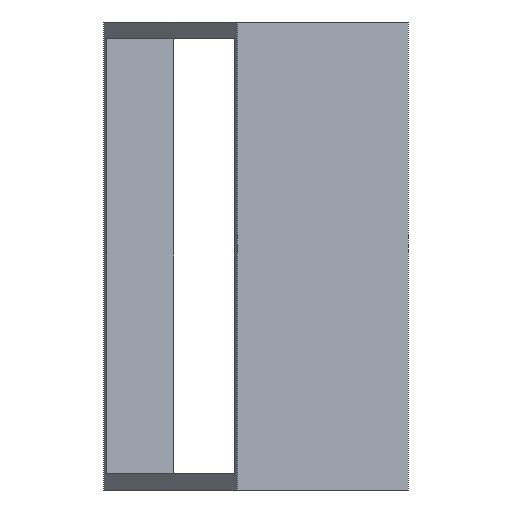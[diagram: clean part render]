
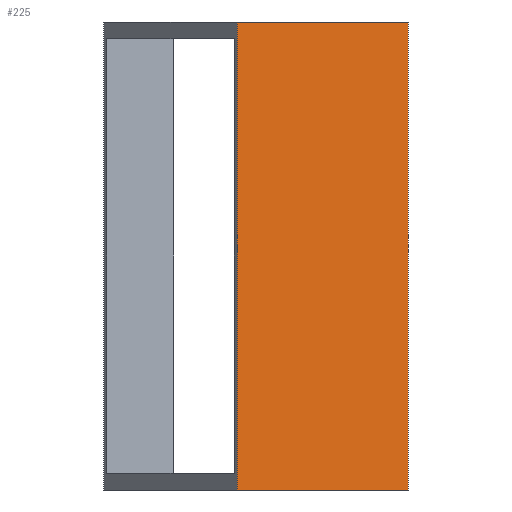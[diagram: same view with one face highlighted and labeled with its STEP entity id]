
A CAD part, left-side view. The second image highlights one B-rep face of the part: STEP entity #225.
In plain terms, the highlighted planar face has unit normal (-0.985, -0.175, 0).
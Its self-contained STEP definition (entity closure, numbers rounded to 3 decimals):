
#61 = EDGE_CURVE('',#62,#64,#66,.T.);
#62 = VERTEX_POINT('',#63);
#63 = CARTESIAN_POINT('',(-4.008,8.613,0.943));
#64 = VERTEX_POINT('',#65);
#65 = CARTESIAN_POINT('',(-4.098,9.123,0.943));
#66 = LINE('',#67,#68);
#67 = CARTESIAN_POINT('',(-3.958,8.335,0.943));
#68 = VECTOR('',#69,1.);
#69 = DIRECTION('',(-0.175,0.985,0.));
#95 = EDGE_CURVE('',#64,#96,#98,.T.);
#96 = VERTEX_POINT('',#97);
#97 = CARTESIAN_POINT('',(-4.098,9.123,2.337));
#98 = LINE('',#99,#100);
#99 = CARTESIAN_POINT('',(-4.098,9.123,0.943));
#100 = VECTOR('',#101,1.);
#101 = DIRECTION('',(0.,0.,1.));
#151 = EDGE_CURVE('',#152,#96,#154,.T.);
#152 = VERTEX_POINT('',#153);
#153 = CARTESIAN_POINT('',(-4.008,8.613,2.337));
#154 = LINE('',#155,#156);
#155 = CARTESIAN_POINT('',(-3.958,8.335,2.337));
#156 = VECTOR('',#157,1.);
#157 = DIRECTION('',(-0.175,0.985,0.));
#178 = EDGE_CURVE('',#62,#152,#179,.T.);
#179 = LINE('',#180,#181);
#180 = CARTESIAN_POINT('',(-4.008,8.613,-10.));
#181 = VECTOR('',#182,1.);
#182 = DIRECTION('',(0.,0.,1.));
#225 = ADVANCED_FACE('',(#226),#232,.T.);
#226 = FACE_BOUND('',#227,.T.);
#227 = EDGE_LOOP('',(#228,#229,#230,#231));
#228 = ORIENTED_EDGE('',*,*,#61,.F.);
#229 = ORIENTED_EDGE('',*,*,#178,.T.);
#230 = ORIENTED_EDGE('',*,*,#151,.T.);
#231 = ORIENTED_EDGE('',*,*,#95,.F.);
#232 = PLANE('',#233);
#233 = AXIS2_PLACEMENT_3D('',#234,#235,#236);
#234 = CARTESIAN_POINT('',(-3.958,8.335,0.943));
#235 = DIRECTION('',(-0.985,-0.175,0.));
#236 = DIRECTION('',(0.,0.,1.));
